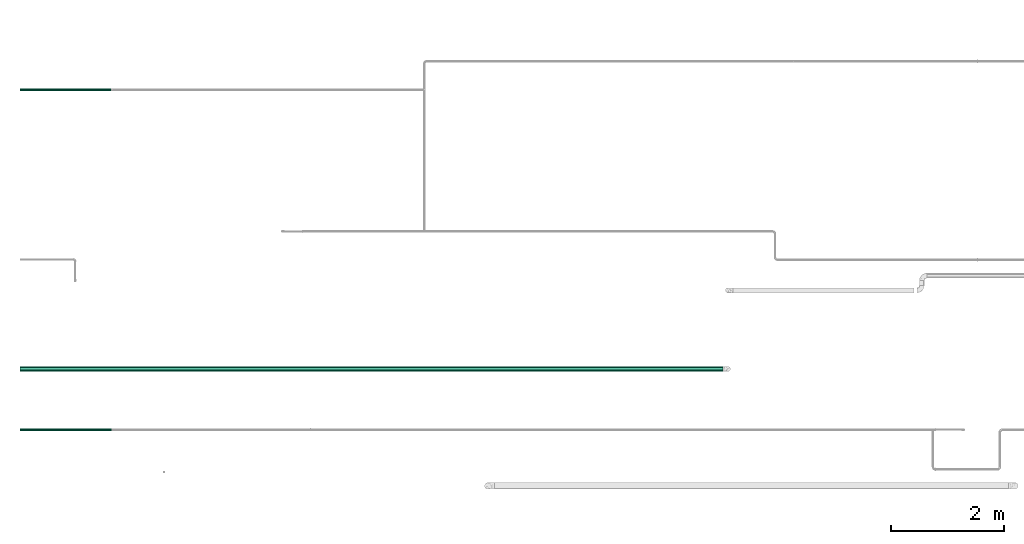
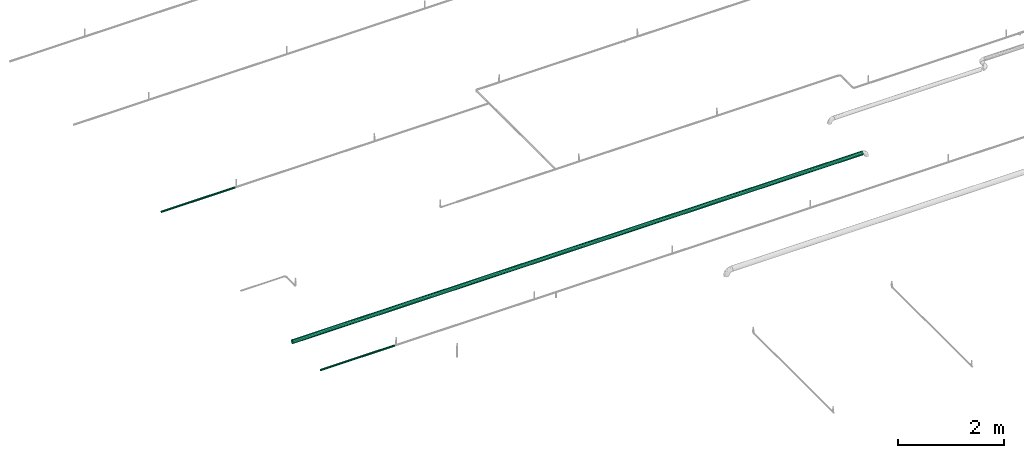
# One storey, part 90 of 94: 3 flow segments.
"""IFC2X3 building model written with IfcOpenShell, lengths in millimetres."""

import ifcopenshell
import ifcopenshell.guid

model = None  # the IFC model being written
_history = None  # IfcOwnerHistory: only IFC2X3 demands one
_inside = {}  # id of a spatial element -> (the spatial element, [elements in it])
_under = {}  # id of a project, library or spatial element -> (it, [spatial elements below it])
_declared = {}  # id of a project -> (the project, [libraries it declares])
_typed = {}  # id of a type object -> (the type object, [elements of that type])
_made_of = {}  # id of a material, layer set ... -> (it, [elements and type objects made of it])


def new_model(schema):
    """Start an empty IFC model of exactly this schema.

    Asked for "IFC4X3", IfcOpenShell would pick the latest addendum, in which some entities
    have other attributes; the version numbers below select the first issue.
    IFC2X3 requires an IfcOwnerHistory on every rooted entity: one is made here for all.
    """
    global model, _history
    if schema == "IFC4X3":
        model = ifcopenshell.file(schema_version=(4, 3, 0, 0))
    else:
        model = ifcopenshell.file(schema=schema)
    _inside.clear()
    _under.clear()
    _declared.clear()
    _typed.clear()
    _made_of.clear()
    _history = None
    if model.schema == "IFC2X3":
        org = make("IfcOrganization", Name="unknown")
        user = make(
            "IfcPersonAndOrganization",
            ThePerson=make("IfcPerson", FamilyName="unknown"),
            TheOrganization=org,
        )
        app = make(
            "IfcApplication",
            ApplicationDeveloper=org,
            Version="unknown",
            ApplicationFullName="unknown",
            ApplicationIdentifier="unknown",
        )
        _history = make(
            "IfcOwnerHistory",
            OwningUser=user,
            OwningApplication=app,
            ChangeAction="ADDED",
            CreationDate=0,
        )
    return model


def make(cls, **values):
    """One entity of the class cls with the attributes given. An attribute that is None is left unset."""
    return model.create_entity(
        cls, **{name: value for name, value in values.items() if value is not None}
    )


def entity(cls, *values):
    """Any entity or typed value of the class cls, its attributes in the order of the schema. None: left unset."""
    e = model.create_entity(cls)
    for i, value in enumerate(values):
        if value is not None:
            e[i] = value
    return e


def rooted(cls, **values):
    """An entity with a GlobalId (a new one), such as an element, a storey or a relation."""
    return make(cls, GlobalId=ifcopenshell.guid.new(), OwnerHistory=_history, **values)


def si_unit(unit_type, name, prefix=None):
    """IfcSIUnit, for example si_unit("LENGTHUNIT", "METRE", prefix="MILLI")."""
    return make("IfcSIUnit", UnitType=unit_type, Prefix=prefix, Name=name)


def converted_unit(unit_type, name, factor, base, dimensions=None, offset=None):
    """IfcConversionBasedUnit, such as the inch: factor (a typed value) times the base unit."""
    return make(
        "IfcConversionBasedUnit"
        if offset is None
        else "IfcConversionBasedUnitWithOffset",
        ConversionOffset=offset,
        Dimensions=None
        if dimensions is None
        else entity("IfcDimensionalExponents", *dimensions),
        UnitType=unit_type,
        Name=name,
        ConversionFactor=make(
            "IfcMeasureWithUnit", ValueComponent=factor, UnitComponent=base
        ),
    )


def derived_unit(unit_type, elements):
    """IfcDerivedUnit: a product of units, each with its exponent."""
    return make(
        "IfcDerivedUnit",
        Elements=[
            make("IfcDerivedUnitElement", Unit=unit, Exponent=power)
            for unit, power in elements
        ],
        UnitType=unit_type,
    )


def assignment(units):
    """IfcUnitAssignment: the units of a project."""
    return None if units is None else make("IfcUnitAssignment", Units=units)


def point(xyz):
    """IfcCartesianPoint."""
    return None if xyz is None else make("IfcCartesianPoint", Coordinates=xyz)


def direction(xyz):
    """IfcDirection."""
    return None if xyz is None else make("IfcDirection", DirectionRatios=xyz)


def frame(location, z_axis=None, x_axis=None):
    """IfcAxis2Placement3D, a coordinate frame: its origin and axes. An axis left out is left unset."""
    return make(
        "IfcAxis2Placement3D",
        Location=point(location),
        Axis=direction(z_axis),
        RefDirection=direction(x_axis),
    )


def place(relative_to, where):
    """IfcLocalPlacement: puts the frame where relative to a parent placement (None: the world)."""
    return make(
        "IfcLocalPlacement", PlacementRelTo=relative_to, RelativePlacement=where
    )


def context(
    kind, dimensions, precision=None, world=None, true_north=None, identifier=None
):
    """IfcGeometricRepresentationContext, for example the 3D "Model" context."""
    return make(
        "IfcGeometricRepresentationContext",
        ContextIdentifier=identifier,
        ContextType=kind,
        CoordinateSpaceDimension=dimensions,
        Precision=precision,
        WorldCoordinateSystem=world,
        TrueNorth=true_north,
    )


def subcontext(parent, identifier, kind, view, scale=None):
    """IfcGeometricRepresentationSubContext, for example "Body" below "Model"."""
    return make(
        "IfcGeometricRepresentationSubContext",
        ContextIdentifier=identifier,
        ContextType=kind,
        ParentContext=parent,
        TargetScale=scale,
        TargetView=view,
    )


def project(units=None, contexts=None):
    """IfcProject with its units and contexts."""
    return rooted(
        "IfcProject",
        Name="project",
        RepresentationContexts=contexts,
        UnitsInContext=assignment(units),
    )


def spatial(cls, under=None, at=None, **own):
    """A site, building, storey or space (cls), placed at a placement, below another one or the project."""
    s = rooted(cls, ObjectPlacement=at, **own)
    if under is not None:
        _under.setdefault(under.id(), (under, []))[1].append(s)
    return s


def faces_of(points, faces, orient=None, outer=None):
    """IfcFace entities. A face is a list of loops; a loop is a list of indices into points, from 0.

    orient and outer hold one flag for each loop. By default every Orientation is true, the
    first loop of a face is its IfcFaceOuterBound and the others are IfcFaceBound.
    """
    made = []
    for i, loops in enumerate(faces):
        bounds = []
        for j, loop in enumerate(loops):
            is_outer = j == 0 if outer is None else outer[i][j]
            bounds.append(
                make(
                    "IfcFaceOuterBound" if is_outer else "IfcFaceBound",
                    Bound=make("IfcPolyLoop", Polygon=[points[k] for k in loop]),
                    Orientation=True if orient is None else orient[i][j],
                )
            )
        made.append(make("IfcFace", Bounds=bounds))
    return made


def faceted_brep(points, faces, orient=None, outer=None, voids=None):
    """IfcFacetedBrep: a solid bounded by flat faces; with voids (closed shells), ...WithVoids."""
    shared = [point(p) for p in points]
    hull = make("IfcClosedShell", CfsFaces=faces_of(shared, faces, orient, outer))
    if voids is None:
        return make("IfcFacetedBrep", Outer=hull)
    return make(
        "IfcFacetedBrepWithVoids",
        Outer=hull,
        Voids=[
            make(cls, CfsFaces=faces_of(shared, fs, o, b)) for cls, fs, o, b in voids
        ],
    )


def shape(context_of_items, identifier, shape_type, items):
    """IfcShapeRepresentation: the items that make up one representation, for example the "Body"."""
    return make(
        "IfcShapeRepresentation",
        ContextOfItems=context_of_items,
        RepresentationIdentifier=identifier,
        RepresentationType=shape_type,
        Items=items,
    )


def made_of(thing, what):
    """Note that an element or type object is made of a material, layer set ...; save() writes the relation."""
    if what is not None:
        _made_of.setdefault(what.id(), (what, []))[1].append(thing)
    return thing


def type_object(cls, material=None, **own):
    """A type object (cls), such as IfcWallType, which elements share."""
    return made_of(rooted(cls, **own), material)


def element(
    cls,
    number,
    at=None,
    inside=None,
    cuts=None,
    type_object=None,
    material=None,
    context=None,
    identifier="Body",
    shape_type=None,
    held_by="IfcProductDefinitionShape",
    body=None,
    shapes=None,
    **own,
):
    """One element of the class cls, such as IfcWall. Its Tag is "e" and its number.

    at: its placement. inside: the storey or other place that contains it. cuts: it is an
    opening in that element (IfcRelVoidsElement). A single representation is given by context,
    identifier, shape_type and body (its items); several are given by shapes. held_by: the class
    of the entity that holds the representations. save() writes the other relations.
    """
    e = rooted(cls, Tag="e%d" % number, ObjectPlacement=at, **own)
    if body is not None:
        shapes = [shape(context, identifier, shape_type, body)]
    if shapes is not None:
        e.Representation = make(held_by, Representations=shapes)
    if inside is not None:
        _inside.setdefault(inside.id(), (inside, []))[1].append(e)
    if cuts is not None:
        rooted(
            "IfcRelVoidsElement", RelatingBuildingElement=cuts, RelatedOpeningElement=e
        )
    if type_object is not None:
        _typed.setdefault(type_object.id(), (type_object, []))[1].append(e)
    return made_of(e, material)


def aggregate(whole, parts):
    """IfcRelAggregates: a whole, such as a stair, and the parts it consists of."""
    return rooted("IfcRelAggregates", RelatingObject=whole, RelatedObjects=parts)


def save(model, path):
    """Write the relations noted so far, then the file.

    IfcRelAggregates (storeys below a building ...), IfcRelContainedInSpatialStructure (elements
    in a storey), IfcRelDefinesByType, IfcRelAssociatesMaterial and IfcRelDeclares: one each for
    every whole, place, type object, material and project.
    """
    for whole, parts in _under.values():
        aggregate(whole, parts)
    for where, things in _inside.values():
        rooted(
            "IfcRelContainedInSpatialStructure",
            RelatedElements=things,
            RelatingStructure=where,
        )
    for kind, things in _typed.values():
        rooted("IfcRelDefinesByType", RelatedObjects=things, RelatingType=kind)
    for what, things in _made_of.values():
        rooted("IfcRelAssociatesMaterial", RelatedObjects=things, RelatingMaterial=what)
    for by, libraries in _declared.values():
        rooted("IfcRelDeclares", RelatingContext=by, RelatedDefinitions=libraries)
    model.write(path)


model = new_model("IFC2X3")

# Units and contexts
model_context = context("Model", 3, precision=0.01, world=frame((0.0, 4.29681676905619e-09, 0.0)), true_north=direction((4.01073788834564e-13, 1.0)))
plan_context = context("Plan", 3, precision=0.01, world=frame((0.0, 4.29681676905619e-09, 0.0)), true_north=direction((4.01073788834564e-13, 1.0)))
body_context = subcontext(model_context, "Body", "Model", "MODEL_VIEW")
ifc_project = project(units=[converted_unit("PLANEANGLEUNIT", "DEGREE", entity("IfcPositiveLengthMeasure", 0.0174532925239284), si_unit("PLANEANGLEUNIT", "RADIAN"), dimensions=[0, 0, 0, 0, 0, 0, 0]), si_unit("AREAUNIT", "SQUARE_METRE"), si_unit("LENGTHUNIT", "METRE", prefix="MILLI"), si_unit("MASSUNIT", "GRAM", prefix="KILO"), si_unit("POWERUNIT", "WATT"), si_unit("PRESSUREUNIT", "PASCAL"), si_unit("FORCEUNIT", "NEWTON", prefix="KILO"), si_unit("ELECTRICCURRENTUNIT", "AMPERE"), si_unit("THERMODYNAMICTEMPERATUREUNIT", "DEGREE_CELSIUS"), si_unit("TIMEUNIT", "SECOND"), si_unit("VOLUMEUNIT", "CUBIC_METRE"), derived_unit("LINEARVELOCITYUNIT", [(si_unit("LENGTHUNIT", "METRE"), 1), (si_unit("TIMEUNIT", "SECOND"), -1)]), derived_unit("VOLUMETRICFLOWRATEUNIT", [(si_unit("VOLUMEUNIT", "CUBIC_METRE"), 1), (si_unit("TIMEUNIT", "SECOND"), -1)]), derived_unit("THERMALTRANSMITTANCEUNIT", [(si_unit("POWERUNIT", "WATT"), 1), (si_unit("THERMODYNAMICTEMPERATUREUNIT", "KELVIN"), -1), (si_unit("AREAUNIT", "SQUARE_METRE"), -1)])], contexts=[model_context, plan_context])

# Site, building, storey
site_placement = place(None, frame((0.0, -4.29681676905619e-09, 0.0), z_axis=(0.0, 0.0, 1.0), x_axis=(1.0, 0.0, 0.0)))
site = spatial("IfcSite", under=ifc_project, at=site_placement, CompositionType="ELEMENT")
building_placement = place(site_placement, frame((0.0, 4.29681676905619e-09, 0.0), z_axis=(0.0, 0.0, 1.0), x_axis=(1.0, 0.0, 0.0)))
building = spatial("IfcBuilding", under=site, at=building_placement, Name="mc-building", CompositionType="ELEMENT")
storey_placement = place(building_placement, frame((0.0, 0.0, 200300.0), z_axis=(0.0, 0.0, 1.0), x_axis=(1.0, 0.0, 0.0)))
storey = spatial("IfcBuildingStorey", under=building, at=storey_placement, Name="Nivå C", CompositionType="ELEMENT", Elevation=200300.0)

# Flow segments
pipe_segment_type = type_object("IfcPipeSegmentType", Name="Stålrør normaltykke", PredefinedType="RIGIDSEGMENT")
flow_segment_1_placement = place(storey_placement, frame((512531.06879, 412998.99053, 2850.0), z_axis=(0.0, 0.0, 1.0), x_axis=(1.0, 0.0, 0.0)))
element("IfcFlowSegment", 1, at=flow_segment_1_placement, inside=storey, type_object=pipe_segment_type, Name="Stålrør normaltykke", context=body_context, shape_type="Brep", body=[
    faceted_brep([(1331.43121000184, 18.9083088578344, -3.33404501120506), (1331.43121000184, 19.2, 0.0), (2932.4, 19.2, 0.0), (2932.4, 18.9083088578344, -3.33404501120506), (1331.43121000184, 18.0420983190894, -6.56678675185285), (2932.4, 18.0420983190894, -6.56678675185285), (1331.43121000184, 16.6276877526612, -9.60000000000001), (2932.4, 16.6276877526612, -9.60000000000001), (1331.43121000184, 14.7080533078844, -12.3415221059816), (2932.4, 14.7080533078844, -12.3415221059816), (1331.43121000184, 12.3415221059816, -14.7080533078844), (2932.4, 12.3415221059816, -14.7080533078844), (1331.43121000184, 9.6, -16.6276877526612), (2932.4, 9.6, -16.6276877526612), (1331.43121000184, 6.56678675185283, -18.0420983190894), (2932.4, 6.56678675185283, -18.0420983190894), (1331.43121000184, 3.33404501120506, -18.9083088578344), (2932.4, 3.33404501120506, -18.9083088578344), (1331.43121000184, -3.52698278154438e-15, -19.2), (2932.4, -3.52698278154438e-15, -19.2), (1331.43121000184, -3.33404501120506, -18.9083088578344), (2932.4, -3.33404501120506, -18.9083088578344), (1331.43121000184, -6.56678675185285, -18.0420983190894), (2932.4, -6.56678675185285, -18.0420983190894), (1331.43121000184, -9.60000000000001, -16.6276877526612), (2932.4, -9.60000000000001, -16.6276877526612), (1331.43121000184, -12.3415221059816, -14.7080533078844), (2932.4, -12.3415221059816, -14.7080533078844), (1331.43121000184, -14.7080533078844, -12.3415221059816), (2932.4, -14.7080533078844, -12.3415221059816), (1331.43121000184, -16.6276877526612, -9.59999999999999), (2932.4, -16.6276877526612, -9.59999999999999), (1331.43121000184, -18.0420983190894, -6.56678675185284), (2932.4, -18.0420983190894, -6.56678675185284), (1331.43121000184, -18.9083088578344, -3.33404501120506), (2932.4, -18.9083088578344, -3.33404501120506), (1331.43121000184, -19.2, 2.35132185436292e-15), (2932.4, -19.2, 2.35132185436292e-15), (1331.43121000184, -18.9083088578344, 3.33404501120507), (2932.4, -18.9083088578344, 3.33404501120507), (1331.43121000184, -18.0420983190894, 6.56678675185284), (2932.4, -18.0420983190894, 6.56678675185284), (1331.43121000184, -16.6276877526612, 9.6), (2932.4, -16.6276877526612, 9.6), (1331.43121000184, -14.7080533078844, 12.3415221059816), (2932.4, -14.7080533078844, 12.3415221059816), (1331.43121000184, -12.3415221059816, 14.7080533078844), (2932.4, -12.3415221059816, 14.7080533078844), (1331.43121000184, -9.6, 16.6276877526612), (2932.4, -9.6, 16.6276877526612), (1331.43121000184, -6.56678675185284, 18.0420983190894), (2932.4, -6.56678675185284, 18.0420983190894), (1331.43121000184, -3.33404501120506, 18.9083088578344), (2932.4, -3.33404501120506, 18.9083088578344), (1331.43121000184, 1.17566092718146e-15, 19.2), (2932.4, 1.17566092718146e-15, 19.2), (1331.43121000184, 3.33404501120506, 18.9083088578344), (2932.4, 3.33404501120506, 18.9083088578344), (1331.43121000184, 6.56678675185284, 18.0420983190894), (2932.4, 6.56678675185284, 18.0420983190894), (1331.43121000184, 9.6, 16.6276877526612), (2932.4, 9.6, 16.6276877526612), (1331.43121000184, 12.3415221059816, 14.7080533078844), (2932.4, 12.3415221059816, 14.7080533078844), (1331.43121000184, 14.7080533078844, 12.3415221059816), (2932.4, 14.7080533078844, 12.3415221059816), (1331.43121000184, 16.6276877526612, 9.6), (2932.4, 16.6276877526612, 9.6), (1331.43121000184, 18.0420983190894, 6.56678675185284), (2932.4, 18.0420983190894, 6.56678675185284), (1331.43121000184, 18.9083088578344, 3.33404501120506), (2932.4, 18.9083088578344, 3.33404501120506), (1331.43121000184, 21.2, 0.0), (1331.43121000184, 20.8779243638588, -3.68134136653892), (2932.4, 20.8779243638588, -3.68134136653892), (2932.4, 21.2, 0.0), (1331.43121000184, 20.8779243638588, 3.68134136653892), (2932.4, 20.8779243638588, 3.68134136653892), (1331.43121000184, 19.9214835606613, 7.25082703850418), (2932.4, 19.9214835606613, 7.25082703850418), (1331.43121000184, 18.3597385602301, 10.6), (2932.4, 18.3597385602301, 10.6), (1331.43121000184, 16.2401421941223, 13.6270973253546), (2932.4, 16.2401421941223, 13.6270973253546), (1331.43121000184, 13.6270973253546, 16.2401421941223), (2932.4, 13.6270973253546, 16.2401421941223), (1331.43121000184, 10.6, 18.3597385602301), (2932.4, 10.6, 18.3597385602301), (1331.43121000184, 7.25082703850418, 19.9214835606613), (2932.4, 7.25082703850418, 19.9214835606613), (1331.43121000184, 3.68134136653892, 20.8779243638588), (2932.4, 3.68134136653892, 20.8779243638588), (1331.43121000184, 1.29812560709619e-15, 21.2), (2932.4, 1.29812560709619e-15, 21.2), (1331.43121000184, -3.68134136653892, 20.8779243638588), (2932.4, -3.68134136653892, 20.8779243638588), (1331.43121000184, -7.25082703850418, 19.9214835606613), (2932.4, -7.25082703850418, 19.9214835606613), (1331.43121000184, -10.6, 18.3597385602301), (2932.4, -10.6, 18.3597385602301), (1331.43121000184, -13.6270973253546, 16.2401421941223), (2932.4, -13.6270973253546, 16.2401421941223), (1331.43121000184, -16.2401421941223, 13.6270973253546), (2932.4, -16.2401421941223, 13.6270973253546), (1331.43121000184, -18.3597385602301, 10.6), (2932.4, -18.3597385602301, 10.6), (1331.43121000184, -19.9214835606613, 7.25082703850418), (2932.4, -19.9214835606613, 7.25082703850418), (1331.43121000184, -20.8779243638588, 3.68134136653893), (2932.4, -20.8779243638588, 3.68134136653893), (1331.43121000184, -21.2, 2.59625121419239e-15), (2932.4, -21.2, 2.59625121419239e-15), (1331.43121000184, -20.8779243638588, -3.68134136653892), (2932.4, -20.8779243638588, -3.68134136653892), (1331.43121000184, -19.9214835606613, -7.25082703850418), (2932.4, -19.9214835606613, -7.25082703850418), (1331.43121000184, -18.3597385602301, -10.6), (2932.4, -18.3597385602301, -10.6), (1331.43121000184, -16.2401421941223, -13.6270973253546), (2932.4, -16.2401421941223, -13.6270973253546), (1331.43121000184, -13.6270973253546, -16.2401421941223), (2932.4, -13.6270973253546, -16.2401421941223), (1331.43121000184, -10.6, -18.3597385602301), (2932.4, -10.6, -18.3597385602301), (1331.43121000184, -7.25082703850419, -19.9214835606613), (2932.4, -7.25082703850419, -19.9214835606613), (1331.43121000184, -3.68134136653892, -20.8779243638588), (2932.4, -3.68134136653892, -20.8779243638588), (1331.43121000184, -3.89437682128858e-15, -21.2), (2932.4, -3.89437682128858e-15, -21.2), (1331.43121000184, 3.68134136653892, -20.8779243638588), (2932.4, 3.68134136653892, -20.8779243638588), (1331.43121000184, 7.25082703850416, -19.9214835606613), (2932.4, 7.25082703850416, -19.9214835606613), (1331.43121000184, 10.6, -18.3597385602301), (2932.4, 10.6, -18.3597385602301), (1331.43121000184, 13.6270973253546, -16.2401421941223), (2932.4, 13.6270973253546, -16.2401421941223), (1331.43121000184, 16.2401421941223, -13.6270973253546), (2932.4, 16.2401421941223, -13.6270973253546), (1331.43121000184, 18.3597385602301, -10.6), (2932.4, 18.3597385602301, -10.6), (1331.43121000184, 19.9214835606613, -7.25082703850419), (2932.4, 19.9214835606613, -7.25082703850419)], [[[0, 1, 2, 3]], [[4, 0, 3, 5]], [[6, 4, 5, 7]], [[8, 6, 7, 9]], [[10, 8, 9, 11]], [[12, 10, 11, 13]], [[14, 12, 13, 15]], [[16, 14, 15, 17]], [[18, 16, 17, 19]], [[20, 18, 19, 21]], [[22, 20, 21, 23]], [[24, 22, 23, 25]], [[26, 24, 25, 27]], [[28, 26, 27, 29]], [[30, 28, 29, 31]], [[32, 30, 31, 33]], [[34, 32, 33, 35]], [[36, 34, 35, 37]], [[38, 36, 37, 39]], [[40, 38, 39, 41]], [[42, 40, 41, 43]], [[44, 42, 43, 45]], [[46, 44, 45, 47]], [[48, 46, 47, 49]], [[50, 48, 49, 51]], [[52, 50, 51, 53]], [[54, 52, 53, 55]], [[56, 54, 55, 57]], [[58, 56, 57, 59]], [[60, 58, 59, 61]], [[62, 60, 61, 63]], [[64, 62, 63, 65]], [[66, 64, 65, 67]], [[68, 66, 67, 69]], [[70, 68, 69, 71]], [[1, 70, 71, 2]], [[72, 73, 74, 75]], [[76, 72, 75, 77]], [[78, 76, 77, 79]], [[80, 78, 79, 81]], [[82, 80, 81, 83]], [[84, 82, 83, 85]], [[86, 84, 85, 87]], [[88, 86, 87, 89]], [[90, 88, 89, 91]], [[92, 90, 91, 93]], [[94, 92, 93, 95]], [[96, 94, 95, 97]], [[98, 96, 97, 99]], [[100, 98, 99, 101]], [[102, 100, 101, 103]], [[104, 102, 103, 105]], [[106, 104, 105, 107]], [[108, 106, 107, 109]], [[110, 108, 109, 111]], [[112, 110, 111, 113]], [[114, 112, 113, 115]], [[116, 114, 115, 117]], [[118, 116, 117, 119]], [[120, 118, 119, 121]], [[122, 120, 121, 123]], [[124, 122, 123, 125]], [[126, 124, 125, 127]], [[128, 126, 127, 129]], [[130, 128, 129, 131]], [[132, 130, 131, 133]], [[134, 132, 133, 135]], [[136, 134, 135, 137]], [[138, 136, 137, 139]], [[140, 138, 139, 141]], [[142, 140, 141, 143]], [[73, 142, 143, 74]], [[75, 74, 143, 141, 139, 137, 135, 133, 131, 129, 127, 125, 123, 121, 119, 117, 115, 113, 111, 109, 107, 105, 103, 101, 99, 97, 95, 93, 91, 89, 87, 85, 83, 81, 79, 77], [2, 71, 69, 67, 65, 63, 61, 59, 57, 55, 53, 51, 49, 47, 45, 43, 41, 39, 37, 35, 33, 31, 29, 27, 25, 23, 21, 19, 17, 15, 13, 11, 9, 7, 5, 3]], [[76, 78, 80, 82, 84, 86, 88, 90, 92, 94, 96, 98, 100, 102, 104, 106, 108, 110, 112, 114, 116, 118, 120, 122, 124, 126, 128, 130, 132, 134, 136, 138, 140, 142, 73, 72], [4, 6, 8, 10, 12, 14, 16, 18, 20, 22, 24, 26, 28, 30, 32, 34, 36, 38, 40, 42, 44, 46, 48, 50, 52, 54, 56, 58, 60, 62, 64, 66, 68, 70, 1, 0]]], orient=[[False], [False], [False], [False], [False], [False], [False], [False], [False], [False], [False], [False], [False], [False], [False], [False], [False], [False], [False], [False], [False], [False], [False], [False], [False], [False], [False], [False], [False], [False], [False], [False], [False], [False], [False], [False], [False], [False], [False], [False], [False], [False], [False], [False], [False], [False], [False], [False], [False], [False], [False], [False], [False], [False], [False], [False], [False], [False], [False], [False], [False], [False], [False], [False], [False], [False], [False], [False], [False], [False], [False], [False], [False, False], [False, False]]),
])
flow_segment_2_placement = place(storey_placement, frame((513135.06344, 408074.33253, 2850.0), z_axis=(0.0, 0.0, 1.0), x_axis=(1.0, 0.0, 0.0)))
element("IfcFlowSegment", 2, at=flow_segment_2_placement, inside=storey, type_object=pipe_segment_type, Name="Stålrør normaltykke", context=body_context, shape_type="Brep", body=[
    faceted_brep([(727.436560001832, 41.8543295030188, -7.38004755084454), (727.436560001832, 42.5, 0.0), (13122.0, 42.5, 0.0), (13122.0, 41.8543295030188, -7.38004755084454), (727.436560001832, 39.9369363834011, -14.535856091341), (13122.0, 39.9369363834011, -14.535856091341), (727.436560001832, 36.8060796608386, -21.25), (13122.0, 36.8060796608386, -21.25), (727.436560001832, 32.5568888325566, -27.3184734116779), (13122.0, 32.5568888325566, -27.3184734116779), (727.436560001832, 27.3184734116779, -32.5568888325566), (13122.0, 27.3184734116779, -32.5568888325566), (727.436560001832, 21.25, -36.8060796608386), (13122.0, 21.25, -36.8060796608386), (727.436560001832, 14.5358560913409, -39.9369363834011), (13122.0, 14.5358560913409, -39.9369363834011), (727.436560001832, 7.38004755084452, -41.8543295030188), (13122.0, 7.38004755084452, -41.8543295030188), (727.436560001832, -7.80712334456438e-15, -42.5), (13122.0, -7.80712334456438e-15, -42.5), (727.436560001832, -7.38004755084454, -41.8543295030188), (13122.0, -7.38004755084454, -41.8543295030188), (727.436560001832, -14.5358560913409, -39.9369363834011), (13122.0, -14.5358560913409, -39.9369363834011), (727.436560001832, -21.25, -36.8060796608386), (13122.0, -21.25, -36.8060796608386), (727.436560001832, -27.3184734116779, -32.5568888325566), (13122.0, -27.3184734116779, -32.5568888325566), (727.436560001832, -32.5568888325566, -27.3184734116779), (13122.0, -32.5568888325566, -27.3184734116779), (727.436560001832, -36.8060796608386, -21.25), (13122.0, -36.8060796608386, -21.25), (727.436560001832, -39.9369363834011, -14.5358560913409), (13122.0, -39.9369363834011, -14.5358560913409), (727.436560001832, -41.8543295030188, -7.38004755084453), (13122.0, -41.8543295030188, -7.38004755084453), (727.436560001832, -42.5, 5.20474889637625e-15), (13122.0, -42.5, 5.20474889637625e-15), (727.436560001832, -41.8543295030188, 7.38004755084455), (13122.0, -41.8543295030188, 7.38004755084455), (727.436560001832, -39.9369363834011, 14.5358560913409), (13122.0, -39.9369363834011, 14.5358560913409), (727.436560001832, -36.8060796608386, 21.25), (13122.0, -36.8060796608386, 21.25), (727.436560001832, -32.5568888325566, 27.3184734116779), (13122.0, -32.5568888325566, 27.3184734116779), (727.436560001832, -27.3184734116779, 32.5568888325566), (13122.0, -27.3184734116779, 32.5568888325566), (727.436560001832, -21.25, 36.8060796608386), (13122.0, -21.25, 36.8060796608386), (727.436560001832, -14.5358560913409, 39.9369363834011), (13122.0, -14.5358560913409, 39.9369363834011), (727.436560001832, -7.38004755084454, 41.8543295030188), (13122.0, -7.38004755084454, 41.8543295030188), (727.436560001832, 2.60237444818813e-15, 42.5), (13122.0, 2.60237444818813e-15, 42.5), (727.436560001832, 7.38004755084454, 41.8543295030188), (13122.0, 7.38004755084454, 41.8543295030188), (727.436560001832, 14.5358560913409, 39.9369363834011), (13122.0, 14.5358560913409, 39.9369363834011), (727.436560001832, 21.25, 36.8060796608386), (13122.0, 21.25, 36.8060796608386), (727.436560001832, 27.3184734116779, 32.5568888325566), (13122.0, 27.3184734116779, 32.5568888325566), (727.436560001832, 32.5568888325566, 27.3184734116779), (13122.0, 32.5568888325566, 27.3184734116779), (727.436560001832, 36.8060796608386, 21.25), (13122.0, 36.8060796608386, 21.25), (727.436560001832, 39.9369363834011, 14.5358560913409), (13122.0, 39.9369363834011, 14.5358560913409), (727.436560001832, 41.8543295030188, 7.38004755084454), (13122.0, 41.8543295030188, 7.38004755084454), (727.436560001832, 44.5, 0.0), (727.436560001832, 43.8239450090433, -7.7273439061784), (13122.0, 43.8239450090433, -7.7273439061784), (13122.0, 44.5, 0.0), (727.436560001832, 43.8239450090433, 7.7273439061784), (13122.0, 43.8239450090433, 7.7273439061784), (727.436560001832, 41.8163216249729, 15.2198963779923), (13122.0, 41.8163216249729, 15.2198963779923), (727.436560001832, 38.5381304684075, 22.25), (13122.0, 38.5381304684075, 22.25), (727.436560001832, 34.0889777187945, 28.604048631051), (13122.0, 34.0889777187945, 28.604048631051), (727.436560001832, 28.604048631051, 34.0889777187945), (13122.0, 28.604048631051, 34.0889777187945), (727.436560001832, 22.25, 38.5381304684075), (13122.0, 22.25, 38.5381304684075), (727.436560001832, 15.2198963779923, 41.8163216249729), (13122.0, 15.2198963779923, 41.8163216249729), (727.436560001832, 7.7273439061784, 43.8239450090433), (13122.0, 7.7273439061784, 43.8239450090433), (727.436560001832, 2.72483912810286e-15, 44.5), (13122.0, 2.72483912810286e-15, 44.5), (727.436560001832, -7.7273439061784, 43.8239450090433), (13122.0, -7.7273439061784, 43.8239450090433), (727.436560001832, -15.2198963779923, 41.8163216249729), (13122.0, -15.2198963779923, 41.8163216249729), (727.436560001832, -22.25, 38.5381304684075), (13122.0, -22.25, 38.5381304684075), (727.436560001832, -28.604048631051, 34.0889777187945), (13122.0, -28.604048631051, 34.0889777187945), (727.436560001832, -34.0889777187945, 28.604048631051), (13122.0, -34.0889777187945, 28.604048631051), (727.436560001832, -38.5381304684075, 22.25), (13122.0, -38.5381304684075, 22.25), (727.436560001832, -41.8163216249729, 15.2198963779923), (13122.0, -41.8163216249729, 15.2198963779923), (727.436560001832, -43.8239450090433, 7.72734390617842), (13122.0, -43.8239450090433, 7.72734390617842), (727.436560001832, -44.5, 5.44967825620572e-15), (13122.0, -44.5, 5.44967825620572e-15), (727.436560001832, -43.8239450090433, -7.72734390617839), (13122.0, -43.8239450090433, -7.72734390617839), (727.436560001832, -41.8163216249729, -15.2198963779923), (13122.0, -41.8163216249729, -15.2198963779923), (727.436560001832, -38.5381304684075, -22.25), (13122.0, -38.5381304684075, -22.25), (727.436560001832, -34.0889777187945, -28.604048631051), (13122.0, -34.0889777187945, -28.604048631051), (727.436560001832, -28.604048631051, -34.0889777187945), (13122.0, -28.604048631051, -34.0889777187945), (727.436560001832, -22.25, -38.5381304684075), (13122.0, -22.25, -38.5381304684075), (727.436560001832, -15.2198963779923, -41.8163216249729), (13122.0, -15.2198963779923, -41.8163216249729), (727.436560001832, -7.7273439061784, -43.8239450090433), (13122.0, -7.7273439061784, -43.8239450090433), (727.436560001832, -8.17451738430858e-15, -44.5), (13122.0, -8.17451738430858e-15, -44.5), (727.436560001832, 7.72734390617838, -43.8239450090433), (13122.0, 7.72734390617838, -43.8239450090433), (727.436560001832, 15.2198963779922, -41.8163216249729), (13122.0, 15.2198963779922, -41.8163216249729), (727.436560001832, 22.25, -38.5381304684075), (13122.0, 22.25, -38.5381304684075), (727.436560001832, 28.604048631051, -34.0889777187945), (13122.0, 28.604048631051, -34.0889777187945), (727.436560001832, 34.0889777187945, -28.604048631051), (13122.0, 34.0889777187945, -28.604048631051), (727.436560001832, 38.5381304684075, -22.25), (13122.0, 38.5381304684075, -22.25), (727.436560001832, 41.8163216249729, -15.2198963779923), (13122.0, 41.8163216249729, -15.2198963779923)], [[[0, 1, 2, 3]], [[4, 0, 3, 5]], [[6, 4, 5, 7]], [[8, 6, 7, 9]], [[10, 8, 9, 11]], [[12, 10, 11, 13]], [[14, 12, 13, 15]], [[16, 14, 15, 17]], [[18, 16, 17, 19]], [[20, 18, 19, 21]], [[22, 20, 21, 23]], [[24, 22, 23, 25]], [[26, 24, 25, 27]], [[28, 26, 27, 29]], [[30, 28, 29, 31]], [[32, 30, 31, 33]], [[34, 32, 33, 35]], [[36, 34, 35, 37]], [[38, 36, 37, 39]], [[40, 38, 39, 41]], [[42, 40, 41, 43]], [[44, 42, 43, 45]], [[46, 44, 45, 47]], [[48, 46, 47, 49]], [[50, 48, 49, 51]], [[52, 50, 51, 53]], [[54, 52, 53, 55]], [[56, 54, 55, 57]], [[58, 56, 57, 59]], [[60, 58, 59, 61]], [[62, 60, 61, 63]], [[64, 62, 63, 65]], [[66, 64, 65, 67]], [[68, 66, 67, 69]], [[70, 68, 69, 71]], [[1, 70, 71, 2]], [[72, 73, 74, 75]], [[76, 72, 75, 77]], [[78, 76, 77, 79]], [[80, 78, 79, 81]], [[82, 80, 81, 83]], [[84, 82, 83, 85]], [[86, 84, 85, 87]], [[88, 86, 87, 89]], [[90, 88, 89, 91]], [[92, 90, 91, 93]], [[94, 92, 93, 95]], [[96, 94, 95, 97]], [[98, 96, 97, 99]], [[100, 98, 99, 101]], [[102, 100, 101, 103]], [[104, 102, 103, 105]], [[106, 104, 105, 107]], [[108, 106, 107, 109]], [[110, 108, 109, 111]], [[112, 110, 111, 113]], [[114, 112, 113, 115]], [[116, 114, 115, 117]], [[118, 116, 117, 119]], [[120, 118, 119, 121]], [[122, 120, 121, 123]], [[124, 122, 123, 125]], [[126, 124, 125, 127]], [[128, 126, 127, 129]], [[130, 128, 129, 131]], [[132, 130, 131, 133]], [[134, 132, 133, 135]], [[136, 134, 135, 137]], [[138, 136, 137, 139]], [[140, 138, 139, 141]], [[142, 140, 141, 143]], [[73, 142, 143, 74]], [[75, 74, 143, 141, 139, 137, 135, 133, 131, 129, 127, 125, 123, 121, 119, 117, 115, 113, 111, 109, 107, 105, 103, 101, 99, 97, 95, 93, 91, 89, 87, 85, 83, 81, 79, 77], [2, 71, 69, 67, 65, 63, 61, 59, 57, 55, 53, 51, 49, 47, 45, 43, 41, 39, 37, 35, 33, 31, 29, 27, 25, 23, 21, 19, 17, 15, 13, 11, 9, 7, 5, 3]], [[76, 78, 80, 82, 84, 86, 88, 90, 92, 94, 96, 98, 100, 102, 104, 106, 108, 110, 112, 114, 116, 118, 120, 122, 124, 126, 128, 130, 132, 134, 136, 138, 140, 142, 73, 72], [4, 6, 8, 10, 12, 14, 16, 18, 20, 22, 24, 26, 28, 30, 32, 34, 36, 38, 40, 42, 44, 46, 48, 50, 52, 54, 56, 58, 60, 62, 64, 66, 68, 70, 1, 0]]], orient=[[False], [False], [False], [False], [False], [False], [False], [False], [False], [False], [False], [False], [False], [False], [False], [False], [False], [False], [False], [False], [False], [False], [False], [False], [False], [False], [False], [False], [False], [False], [False], [False], [False], [False], [False], [False], [False], [False], [False], [False], [False], [False], [False], [False], [False], [False], [False], [False], [False], [False], [False], [False], [False], [False], [False], [False], [False], [False], [False], [False], [False], [False], [False], [False], [False], [False], [False], [False], [False], [False], [False], [False], [False, False], [False, False]]),
])
flow_segment_3_placement = place(storey_placement, frame((512537.52873, 407003.74497, 2850.0), z_axis=(0.0, 0.0, 1.0), x_axis=(1.0, 0.0, 0.0)))
element("IfcFlowSegment", 3, at=flow_segment_3_placement, inside=storey, type_object=pipe_segment_type, Name="Stålrør normaltykke", context=body_context, shape_type="Brep", body=[
    faceted_brep([(1324.97127000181, 18.9083088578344, -3.33404501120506), (1324.97127000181, 19.2, 0.0), (2937.4, 19.2, 0.0), (2937.4, 18.9083088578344, -3.33404501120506), (1324.97127000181, 18.0420983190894, -6.56678675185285), (2937.4, 18.0420983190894, -6.56678675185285), (1324.97127000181, 16.6276877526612, -9.60000000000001), (2937.4, 16.6276877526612, -9.60000000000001), (1324.97127000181, 14.7080533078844, -12.3415221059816), (2937.4, 14.7080533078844, -12.3415221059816), (1324.97127000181, 12.3415221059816, -14.7080533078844), (2937.4, 12.3415221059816, -14.7080533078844), (1324.97127000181, 9.6, -16.6276877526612), (2937.4, 9.6, -16.6276877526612), (1324.97127000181, 6.56678675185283, -18.0420983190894), (2937.4, 6.56678675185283, -18.0420983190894), (1324.97127000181, 3.33404501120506, -18.9083088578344), (2937.4, 3.33404501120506, -18.9083088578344), (1324.97127000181, -3.52698278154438e-15, -19.2), (2937.4, -3.52698278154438e-15, -19.2), (1324.97127000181, -3.33404501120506, -18.9083088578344), (2937.4, -3.33404501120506, -18.9083088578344), (1324.97127000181, -6.56678675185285, -18.0420983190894), (2937.4, -6.56678675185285, -18.0420983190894), (1324.97127000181, -9.60000000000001, -16.6276877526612), (2937.4, -9.60000000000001, -16.6276877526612), (1324.97127000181, -12.3415221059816, -14.7080533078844), (2937.4, -12.3415221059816, -14.7080533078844), (1324.97127000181, -14.7080533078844, -12.3415221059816), (2937.4, -14.7080533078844, -12.3415221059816), (1324.97127000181, -16.6276877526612, -9.59999999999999), (2937.4, -16.6276877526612, -9.59999999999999), (1324.97127000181, -18.0420983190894, -6.56678675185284), (2937.4, -18.0420983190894, -6.56678675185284), (1324.97127000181, -18.9083088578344, -3.33404501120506), (2937.4, -18.9083088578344, -3.33404501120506), (1324.97127000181, -19.2, 2.35132185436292e-15), (2937.4, -19.2, 2.35132185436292e-15), (1324.97127000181, -18.9083088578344, 3.33404501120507), (2937.4, -18.9083088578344, 3.33404501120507), (1324.97127000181, -18.0420983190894, 6.56678675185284), (2937.4, -18.0420983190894, 6.56678675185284), (1324.97127000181, -16.6276877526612, 9.6), (2937.4, -16.6276877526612, 9.6), (1324.97127000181, -14.7080533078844, 12.3415221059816), (2937.4, -14.7080533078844, 12.3415221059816), (1324.97127000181, -12.3415221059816, 14.7080533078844), (2937.4, -12.3415221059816, 14.7080533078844), (1324.97127000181, -9.6, 16.6276877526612), (2937.4, -9.6, 16.6276877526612), (1324.97127000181, -6.56678675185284, 18.0420983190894), (2937.4, -6.56678675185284, 18.0420983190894), (1324.97127000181, -3.33404501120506, 18.9083088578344), (2937.4, -3.33404501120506, 18.9083088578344), (1324.97127000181, 1.17566092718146e-15, 19.2), (2937.4, 1.17566092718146e-15, 19.2), (1324.97127000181, 3.33404501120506, 18.9083088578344), (2937.4, 3.33404501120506, 18.9083088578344), (1324.97127000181, 6.56678675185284, 18.0420983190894), (2937.4, 6.56678675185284, 18.0420983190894), (1324.97127000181, 9.6, 16.6276877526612), (2937.4, 9.6, 16.6276877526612), (1324.97127000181, 12.3415221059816, 14.7080533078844), (2937.4, 12.3415221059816, 14.7080533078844), (1324.97127000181, 14.7080533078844, 12.3415221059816), (2937.4, 14.7080533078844, 12.3415221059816), (1324.97127000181, 16.6276877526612, 9.6), (2937.4, 16.6276877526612, 9.6), (1324.97127000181, 18.0420983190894, 6.56678675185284), (2937.4, 18.0420983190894, 6.56678675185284), (1324.97127000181, 18.9083088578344, 3.33404501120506), (2937.4, 18.9083088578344, 3.33404501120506), (1324.97127000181, 21.2, 0.0), (1324.97127000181, 20.8779243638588, -3.68134136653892), (2937.4, 20.8779243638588, -3.68134136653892), (2937.4, 21.2, 0.0), (1324.97127000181, 20.8779243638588, 3.68134136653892), (2937.4, 20.8779243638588, 3.68134136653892), (1324.97127000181, 19.9214835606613, 7.25082703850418), (2937.4, 19.9214835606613, 7.25082703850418), (1324.97127000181, 18.3597385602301, 10.6), (2937.4, 18.3597385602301, 10.6), (1324.97127000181, 16.2401421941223, 13.6270973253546), (2937.4, 16.2401421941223, 13.6270973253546), (1324.97127000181, 13.6270973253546, 16.2401421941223), (2937.4, 13.6270973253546, 16.2401421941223), (1324.97127000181, 10.6, 18.3597385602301), (2937.4, 10.6, 18.3597385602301), (1324.97127000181, 7.25082703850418, 19.9214835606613), (2937.4, 7.25082703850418, 19.9214835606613), (1324.97127000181, 3.68134136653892, 20.8779243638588), (2937.4, 3.68134136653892, 20.8779243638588), (1324.97127000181, 1.29812560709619e-15, 21.2), (2937.4, 1.29812560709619e-15, 21.2), (1324.97127000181, -3.68134136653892, 20.8779243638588), (2937.4, -3.68134136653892, 20.8779243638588), (1324.97127000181, -7.25082703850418, 19.9214835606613), (2937.4, -7.25082703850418, 19.9214835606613), (1324.97127000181, -10.6, 18.3597385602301), (2937.4, -10.6, 18.3597385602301), (1324.97127000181, -13.6270973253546, 16.2401421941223), (2937.4, -13.6270973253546, 16.2401421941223), (1324.97127000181, -16.2401421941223, 13.6270973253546), (2937.4, -16.2401421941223, 13.6270973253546), (1324.97127000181, -18.3597385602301, 10.6), (2937.4, -18.3597385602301, 10.6), (1324.97127000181, -19.9214835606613, 7.25082703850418), (2937.4, -19.9214835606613, 7.25082703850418), (1324.97127000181, -20.8779243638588, 3.68134136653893), (2937.4, -20.8779243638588, 3.68134136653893), (1324.97127000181, -21.2, 2.59625121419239e-15), (2937.4, -21.2, 2.59625121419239e-15), (1324.97127000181, -20.8779243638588, -3.68134136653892), (2937.4, -20.8779243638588, -3.68134136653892), (1324.97127000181, -19.9214835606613, -7.25082703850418), (2937.4, -19.9214835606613, -7.25082703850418), (1324.97127000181, -18.3597385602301, -10.6), (2937.4, -18.3597385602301, -10.6), (1324.97127000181, -16.2401421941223, -13.6270973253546), (2937.4, -16.2401421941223, -13.6270973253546), (1324.97127000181, -13.6270973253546, -16.2401421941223), (2937.4, -13.6270973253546, -16.2401421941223), (1324.97127000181, -10.6, -18.3597385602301), (2937.4, -10.6, -18.3597385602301), (1324.97127000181, -7.25082703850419, -19.9214835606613), (2937.4, -7.25082703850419, -19.9214835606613), (1324.97127000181, -3.68134136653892, -20.8779243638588), (2937.4, -3.68134136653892, -20.8779243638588), (1324.97127000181, -3.89437682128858e-15, -21.2), (2937.4, -3.89437682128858e-15, -21.2), (1324.97127000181, 3.68134136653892, -20.8779243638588), (2937.4, 3.68134136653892, -20.8779243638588), (1324.97127000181, 7.25082703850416, -19.9214835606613), (2937.4, 7.25082703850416, -19.9214835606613), (1324.97127000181, 10.6, -18.3597385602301), (2937.4, 10.6, -18.3597385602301), (1324.97127000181, 13.6270973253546, -16.2401421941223), (2937.4, 13.6270973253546, -16.2401421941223), (1324.97127000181, 16.2401421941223, -13.6270973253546), (2937.4, 16.2401421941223, -13.6270973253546), (1324.97127000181, 18.3597385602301, -10.6), (2937.4, 18.3597385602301, -10.6), (1324.97127000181, 19.9214835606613, -7.25082703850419), (2937.4, 19.9214835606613, -7.25082703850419)], [[[0, 1, 2, 3]], [[4, 0, 3, 5]], [[6, 4, 5, 7]], [[8, 6, 7, 9]], [[10, 8, 9, 11]], [[12, 10, 11, 13]], [[14, 12, 13, 15]], [[16, 14, 15, 17]], [[18, 16, 17, 19]], [[20, 18, 19, 21]], [[22, 20, 21, 23]], [[24, 22, 23, 25]], [[26, 24, 25, 27]], [[28, 26, 27, 29]], [[30, 28, 29, 31]], [[32, 30, 31, 33]], [[34, 32, 33, 35]], [[36, 34, 35, 37]], [[38, 36, 37, 39]], [[40, 38, 39, 41]], [[42, 40, 41, 43]], [[44, 42, 43, 45]], [[46, 44, 45, 47]], [[48, 46, 47, 49]], [[50, 48, 49, 51]], [[52, 50, 51, 53]], [[54, 52, 53, 55]], [[56, 54, 55, 57]], [[58, 56, 57, 59]], [[60, 58, 59, 61]], [[62, 60, 61, 63]], [[64, 62, 63, 65]], [[66, 64, 65, 67]], [[68, 66, 67, 69]], [[70, 68, 69, 71]], [[1, 70, 71, 2]], [[72, 73, 74, 75]], [[76, 72, 75, 77]], [[78, 76, 77, 79]], [[80, 78, 79, 81]], [[82, 80, 81, 83]], [[84, 82, 83, 85]], [[86, 84, 85, 87]], [[88, 86, 87, 89]], [[90, 88, 89, 91]], [[92, 90, 91, 93]], [[94, 92, 93, 95]], [[96, 94, 95, 97]], [[98, 96, 97, 99]], [[100, 98, 99, 101]], [[102, 100, 101, 103]], [[104, 102, 103, 105]], [[106, 104, 105, 107]], [[108, 106, 107, 109]], [[110, 108, 109, 111]], [[112, 110, 111, 113]], [[114, 112, 113, 115]], [[116, 114, 115, 117]], [[118, 116, 117, 119]], [[120, 118, 119, 121]], [[122, 120, 121, 123]], [[124, 122, 123, 125]], [[126, 124, 125, 127]], [[128, 126, 127, 129]], [[130, 128, 129, 131]], [[132, 130, 131, 133]], [[134, 132, 133, 135]], [[136, 134, 135, 137]], [[138, 136, 137, 139]], [[140, 138, 139, 141]], [[142, 140, 141, 143]], [[73, 142, 143, 74]], [[75, 74, 143, 141, 139, 137, 135, 133, 131, 129, 127, 125, 123, 121, 119, 117, 115, 113, 111, 109, 107, 105, 103, 101, 99, 97, 95, 93, 91, 89, 87, 85, 83, 81, 79, 77], [2, 71, 69, 67, 65, 63, 61, 59, 57, 55, 53, 51, 49, 47, 45, 43, 41, 39, 37, 35, 33, 31, 29, 27, 25, 23, 21, 19, 17, 15, 13, 11, 9, 7, 5, 3]], [[76, 78, 80, 82, 84, 86, 88, 90, 92, 94, 96, 98, 100, 102, 104, 106, 108, 110, 112, 114, 116, 118, 120, 122, 124, 126, 128, 130, 132, 134, 136, 138, 140, 142, 73, 72], [4, 6, 8, 10, 12, 14, 16, 18, 20, 22, 24, 26, 28, 30, 32, 34, 36, 38, 40, 42, 44, 46, 48, 50, 52, 54, 56, 58, 60, 62, 64, 66, 68, 70, 1, 0]]], orient=[[False], [False], [False], [False], [False], [False], [False], [False], [False], [False], [False], [False], [False], [False], [False], [False], [False], [False], [False], [False], [False], [False], [False], [False], [False], [False], [False], [False], [False], [False], [False], [False], [False], [False], [False], [False], [False], [False], [False], [False], [False], [False], [False], [False], [False], [False], [False], [False], [False], [False], [False], [False], [False], [False], [False], [False], [False], [False], [False], [False], [False], [False], [False], [False], [False], [False], [False], [False], [False], [False], [False], [False], [False, False], [False, False]]),
])

save(model, "model.ifc")
